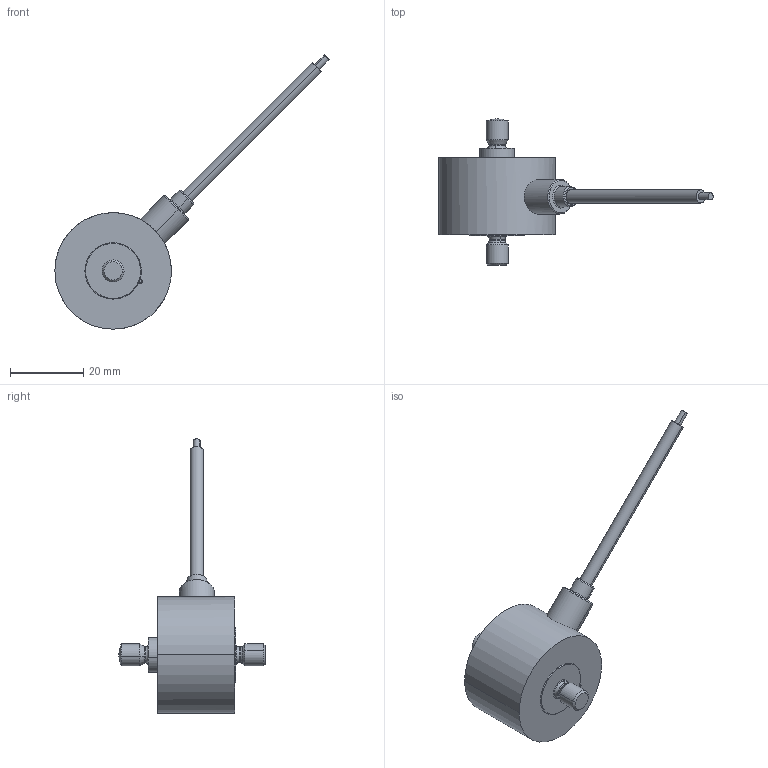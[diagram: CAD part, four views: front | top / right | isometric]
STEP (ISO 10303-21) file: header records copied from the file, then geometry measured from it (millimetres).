
FILE_DESCRIPTION(('STEP AP203'),'1');
FILE_NAME('C:/TPO v2/SharedFS/Outgoing/burster_8432-6001_nurm2x2qokzaevk4g0nk03sa.stp','2013-08-27T17:26:33',('TraceParts'),('TraceParts S.A.'),'XStep 1.0',' ',' ');
FILE_SCHEMA(('CONFIG_CONTROL_DESIGN'));
Length unit declared in the file: millimetre
Products named in the file (1): 1
Bounding box: 74.84 x 39.9 x 74.84 mm (x, y, z)
Volume: 18579.2 mm3; surface area: 5135 mm2
Topology: 1 solids, 1 shells, 71 faces, 163 edges, 104 vertices
Faces by surface type: cylinder 26, cone 16, torus 14, plane 12, bspline 2, sphere 1
Entity records: 2283 total; most frequent: CARTESIAN_POINT 551, DIRECTION 402, ORIENTED_EDGE 326, AXIS2_PLACEMENT_3D 180, EDGE_CURVE 163, CIRCLE 110, VERTEX_POINT 104, EDGE_LOOP 81
